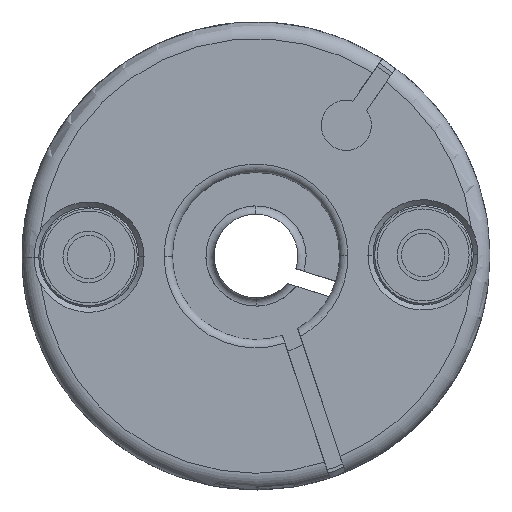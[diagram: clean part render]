
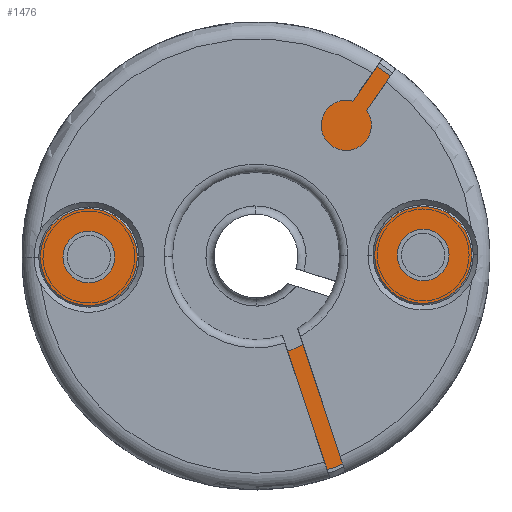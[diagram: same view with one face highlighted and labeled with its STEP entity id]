
A CAD part, front view. The second image highlights one B-rep face of the part: STEP entity #1476.
In plain terms, the highlighted planar face has unit normal (0, -1, 0).
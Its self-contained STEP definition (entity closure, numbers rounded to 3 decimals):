
#154 = ORIENTED_EDGE ( 'NONE', *, *, #155, .T. ) ;
#155 = EDGE_CURVE ( 'NONE', #156, #1423, #12666, .T. ) ;
#156 = VERTEX_POINT ( 'NONE', #12718 ) ;
#160 = ORIENTED_EDGE ( 'NONE', *, *, #161, .T. ) ;
#161 = EDGE_CURVE ( 'NONE', #1423, #156, #12715, .T. ) ;
#171 = EDGE_CURVE ( 'NONE', #1447, #1445, #12693, .T. ) ;
#184 = ORIENTED_EDGE ( 'NONE', *, *, #171, .T. ) ;
#185 = ORIENTED_EDGE ( 'NONE', *, *, #1424, .T. ) ;
#186 = EDGE_LOOP ( 'NONE', ( #1425, #1437 ) ) ;
#188 = EDGE_LOOP ( 'NONE', ( #1453, #1459 ) ) ;
#189 = VERTEX_POINT ( 'NONE', #12730 ) ;
#190 = VERTEX_POINT ( 'NONE', #12729 ) ;
#191 = ORIENTED_EDGE ( 'NONE', *, *, #192, .T. ) ;
#192 = EDGE_CURVE ( 'NONE', #190, #189, #12728, .T. ) ;
#193 = EDGE_CURVE ( 'NONE', #194, #195, #12723, .T. ) ;
#194 = VERTEX_POINT ( 'NONE', #12782 ) ;
#195 = VERTEX_POINT ( 'NONE', #12781 ) ;
#1401 = EDGE_LOOP ( 'NONE', ( #154, #160 ) ) ;
#1404 = EDGE_CURVE ( 'NONE', #1468, #1435, #14601, .T. ) ;
#1407 = EDGE_LOOP ( 'NONE', ( #1439, #191 ) ) ;
#1423 = VERTEX_POINT ( 'NONE', #14588 ) ;
#1424 = EDGE_CURVE ( 'NONE', #195, #194, #14587, .T. ) ;
#1425 = ORIENTED_EDGE ( 'NONE', *, *, #1404, .F. ) ;
#1426 = EDGE_CURVE ( 'NONE', #1455, #1457, #14647, .T. ) ;
#1435 = VERTEX_POINT ( 'NONE', #14632 ) ;
#1437 = ORIENTED_EDGE ( 'NONE', *, *, #1466, .F. ) ;
#1439 = ORIENTED_EDGE ( 'NONE', *, *, #1441, .T. ) ;
#1441 = EDGE_CURVE ( 'NONE', #189, #190, #14630, .T. ) ;
#1443 = EDGE_CURVE ( 'NONE', #1445, #1447, #14624, .T. ) ;
#1445 = VERTEX_POINT ( 'NONE', #14686 ) ;
#1447 = VERTEX_POINT ( 'NONE', #14685 ) ;
#1451 = ORIENTED_EDGE ( 'NONE', *, *, #1443, .T. ) ;
#1453 = ORIENTED_EDGE ( 'NONE', *, *, #1426, .T. ) ;
#1455 = VERTEX_POINT ( 'NONE', #14684 ) ;
#1457 = VERTEX_POINT ( 'NONE', #14683 ) ;
#1459 = ORIENTED_EDGE ( 'NONE', *, *, #1461, .T. ) ;
#1461 = EDGE_CURVE ( 'NONE', #1457, #1455, #14682, .T. ) ;
#1464 = EDGE_LOOP ( 'NONE', ( #1451, #184 ) ) ;
#1466 = EDGE_CURVE ( 'NONE', #1435, #1468, #14677, .T. ) ;
#1468 = VERTEX_POINT ( 'NONE', #14672 ) ;
#1471 = EDGE_LOOP ( 'NONE', ( #1472, #185 ) ) ;
#1472 = ORIENTED_EDGE ( 'NONE', *, *, #193, .T. ) ;
#1476 = ADVANCED_FACE ( 'NONE', ( #14671, #14670, #14669, #14668, #14667, #14666 ), #14665, .F. ) ;
#12662 = DIRECTION ( 'NONE',  ( -0.006, 0., 1. ) ) ;
#12663 = DIRECTION ( 'NONE',  ( 0., 1., 0. ) ) ;
#12664 = CARTESIAN_POINT ( 'NONE',  ( -16.114, 0.287, 2.025 ) ) ;
#12665 = AXIS2_PLACEMENT_3D ( 'NONE', #12664, #12663, #12662 ) ;
#12666 = CIRCLE ( 'NONE', #12665, 1.55 ) ;
#12689 = DIRECTION ( 'NONE',  ( -0.006, 0., 1. ) ) ;
#12690 = DIRECTION ( 'NONE',  ( 0., 1., 0. ) ) ;
#12691 = CARTESIAN_POINT ( 'NONE',  ( 3.886, 0.287, 2.15 ) ) ;
#12692 = AXIS2_PLACEMENT_3D ( 'NONE', #12691, #12690, #12689 ) ;
#12693 = CIRCLE ( 'NONE', #12692, 1.55 ) ;
#12711 = DIRECTION ( 'NONE',  ( -0.006, 0., 1. ) ) ;
#12712 = DIRECTION ( 'NONE',  ( 0., 1., 0. ) ) ;
#12713 = CARTESIAN_POINT ( 'NONE',  ( -16.114, 0.287, 2.025 ) ) ;
#12714 = AXIS2_PLACEMENT_3D ( 'NONE', #12713, #12712, #12711 ) ;
#12715 = CIRCLE ( 'NONE', #12714, 1.55 ) ;
#12718 = CARTESIAN_POINT ( 'NONE',  ( -16.124, 0.287, 3.575 ) ) ;
#12719 = DIRECTION ( 'NONE',  ( -0.006, 0., 1. ) ) ;
#12720 = DIRECTION ( 'NONE',  ( 0., 1., 0. ) ) ;
#12721 = CARTESIAN_POINT ( 'NONE',  ( -6.177, 0.287, 12.087 ) ) ;
#12722 = AXIS2_PLACEMENT_3D ( 'NONE', #12721, #12720, #12719 ) ;
#12723 = CIRCLE ( 'NONE', #12722, 1.55 ) ;
#12724 = DIRECTION ( 'NONE',  ( -0.006, 0., 1. ) ) ;
#12725 = DIRECTION ( 'NONE',  ( 0., 1., 0. ) ) ;
#12726 = CARTESIAN_POINT ( 'NONE',  ( -6.114, 0.287, 2.088 ) ) ;
#12727 = AXIS2_PLACEMENT_3D ( 'NONE', #12726, #12725, #12724 ) ;
#12728 = CIRCLE ( 'NONE', #12727, 6. ) ;
#12729 = CARTESIAN_POINT ( 'NONE',  ( -6.077, 0.287, -3.912 ) ) ;
#12730 = CARTESIAN_POINT ( 'NONE',  ( -6.152, 0.287, 8.087 ) ) ;
#12781 = CARTESIAN_POINT ( 'NONE',  ( -6.167, 0.287, 10.537 ) ) ;
#12782 = CARTESIAN_POINT ( 'NONE',  ( -6.187, 0.287, 13.637 ) ) ;
#14587 = CIRCLE ( 'NONE', #14651, 1.55 ) ;
#14588 = CARTESIAN_POINT ( 'NONE',  ( -16.104, 0.287, 0.475 ) ) ;
#14597 = DIRECTION ( 'NONE',  ( -0.006, 0., 1. ) ) ;
#14598 = DIRECTION ( 'NONE',  ( 0., 1., 0. ) ) ;
#14599 = CARTESIAN_POINT ( 'NONE',  ( -6.114, 0.287, 2.088 ) ) ;
#14600 = AXIS2_PLACEMENT_3D ( 'NONE', #14599, #14598, #14597 ) ;
#14601 = CIRCLE ( 'NONE', #14600, 13.5 ) ;
#14621 = DIRECTION ( 'NONE',  ( -0.006, 0., 1. ) ) ;
#14622 = DIRECTION ( 'NONE',  ( 0., 1., 0. ) ) ;
#14623 = AXIS2_PLACEMENT_3D ( 'NONE', #14631, #14622, #14621 ) ;
#14624 = CIRCLE ( 'NONE', #14623, 1.55 ) ;
#14626 = DIRECTION ( 'NONE',  ( -0.006, 0., 1. ) ) ;
#14627 = DIRECTION ( 'NONE',  ( 0., 1., 0. ) ) ;
#14628 = CARTESIAN_POINT ( 'NONE',  ( -6.114, 0.287, 2.088 ) ) ;
#14629 = AXIS2_PLACEMENT_3D ( 'NONE', #14628, #14627, #14626 ) ;
#14630 = CIRCLE ( 'NONE', #14629, 6. ) ;
#14631 = CARTESIAN_POINT ( 'NONE',  ( 3.886, 0.287, 2.15 ) ) ;
#14632 = CARTESIAN_POINT ( 'NONE',  ( -6.199, 0.287, 15.587 ) ) ;
#14643 = DIRECTION ( 'NONE',  ( -0.006, 0., 1. ) ) ;
#14644 = DIRECTION ( 'NONE',  ( 0., 1., 0. ) ) ;
#14645 = CARTESIAN_POINT ( 'NONE',  ( -6.051, 0.287, -7.912 ) ) ;
#14646 = AXIS2_PLACEMENT_3D ( 'NONE', #14645, #14644, #14643 ) ;
#14647 = CIRCLE ( 'NONE', #14646, 1.55 ) ;
#14648 = DIRECTION ( 'NONE',  ( -0.006, 0., 1. ) ) ;
#14649 = DIRECTION ( 'NONE',  ( 0., 1., 0. ) ) ;
#14650 = CARTESIAN_POINT ( 'NONE',  ( -6.177, 0.287, 12.087 ) ) ;
#14651 = AXIS2_PLACEMENT_3D ( 'NONE', #14650, #14649, #14648 ) ;
#14661 = DIRECTION ( 'NONE',  ( -0.006, 0., 1. ) ) ;
#14662 = DIRECTION ( 'NONE',  ( 0., 1., 0. ) ) ;
#14663 = CARTESIAN_POINT ( 'NONE',  ( -6.114, 0.287, 2.088 ) ) ;
#14664 = AXIS2_PLACEMENT_3D ( 'NONE', #14663, #14662, #14661 ) ;
#14665 = PLANE ( 'NONE',  #14664 ) ;
#14666 = FACE_BOUND ( 'NONE', #1407, .T. ) ;
#14667 = FACE_OUTER_BOUND ( 'NONE', #186, .T. ) ;
#14668 = FACE_BOUND ( 'NONE', #1471, .T. ) ;
#14669 = FACE_BOUND ( 'NONE', #1464, .T. ) ;
#14670 = FACE_BOUND ( 'NONE', #188, .T. ) ;
#14671 = FACE_BOUND ( 'NONE', #1401, .T. ) ;
#14672 = CARTESIAN_POINT ( 'NONE',  ( -6.029, 0.287, -11.412 ) ) ;
#14673 = DIRECTION ( 'NONE',  ( -0.006, 0., 1. ) ) ;
#14674 = DIRECTION ( 'NONE',  ( 0., 1., 0. ) ) ;
#14675 = CARTESIAN_POINT ( 'NONE',  ( -6.114, 0.287, 2.088 ) ) ;
#14676 = AXIS2_PLACEMENT_3D ( 'NONE', #14675, #14674, #14673 ) ;
#14677 = CIRCLE ( 'NONE', #14676, 13.5 ) ;
#14678 = DIRECTION ( 'NONE',  ( -0.006, 0., 1. ) ) ;
#14679 = DIRECTION ( 'NONE',  ( 0., 1., 0. ) ) ;
#14680 = CARTESIAN_POINT ( 'NONE',  ( -6.051, 0.287, -7.912 ) ) ;
#14681 = AXIS2_PLACEMENT_3D ( 'NONE', #14680, #14679, #14678 ) ;
#14682 = CIRCLE ( 'NONE', #14681, 1.55 ) ;
#14683 = CARTESIAN_POINT ( 'NONE',  ( -6.042, 0.287, -9.462 ) ) ;
#14684 = CARTESIAN_POINT ( 'NONE',  ( -6.061, 0.287, -6.362 ) ) ;
#14685 = CARTESIAN_POINT ( 'NONE',  ( 3.895, 0.287, 0.6 ) ) ;
#14686 = CARTESIAN_POINT ( 'NONE',  ( 3.876, 0.287, 3.7 ) ) ;
